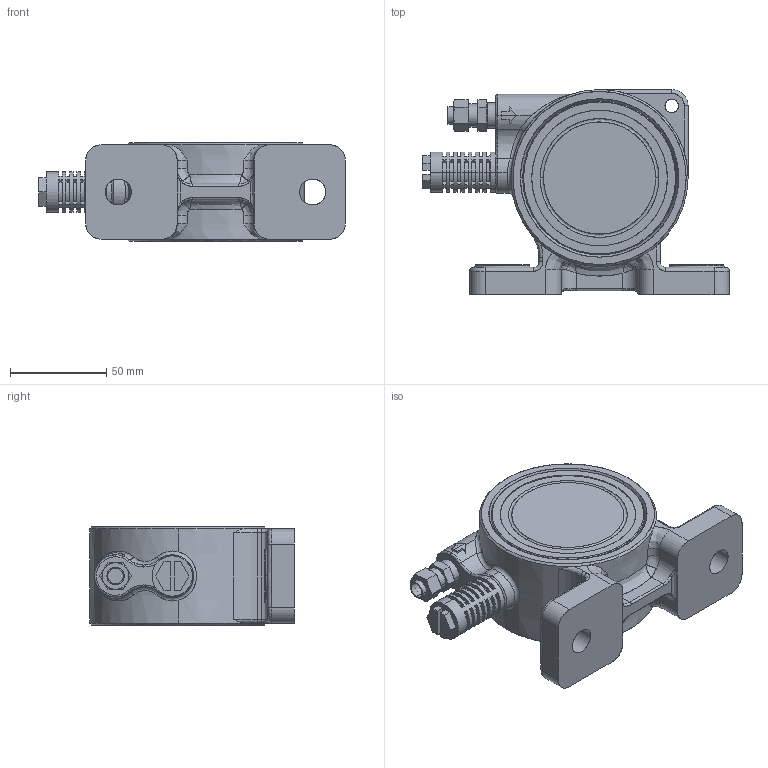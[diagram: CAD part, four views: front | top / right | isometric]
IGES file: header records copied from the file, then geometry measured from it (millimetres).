
Start section: SolidWorks IGES file using analytic representation for surfaces
Global section: file name: V:\WORK\08133\HP 悺朄恾\ball\CH32A\IGS_STEP僼傽僀儖\test_A95000E-000 CH32A_defeature.IGS; native system: SolidWorks 2018; preprocessor: SolidWorks 2018; author: n-udagawa; date: 230222.143841; units: millimetre
Bounding box: 159.5 x 106.5 x 51 mm (x, y, z)
Surface area: 54033.5 mm2 (no closed solid volume)
Topology: 0 solids, 0 shells, 356 faces, 6591 edges, 7570 vertices
Faces by surface type: bspline 243, revolution 113
